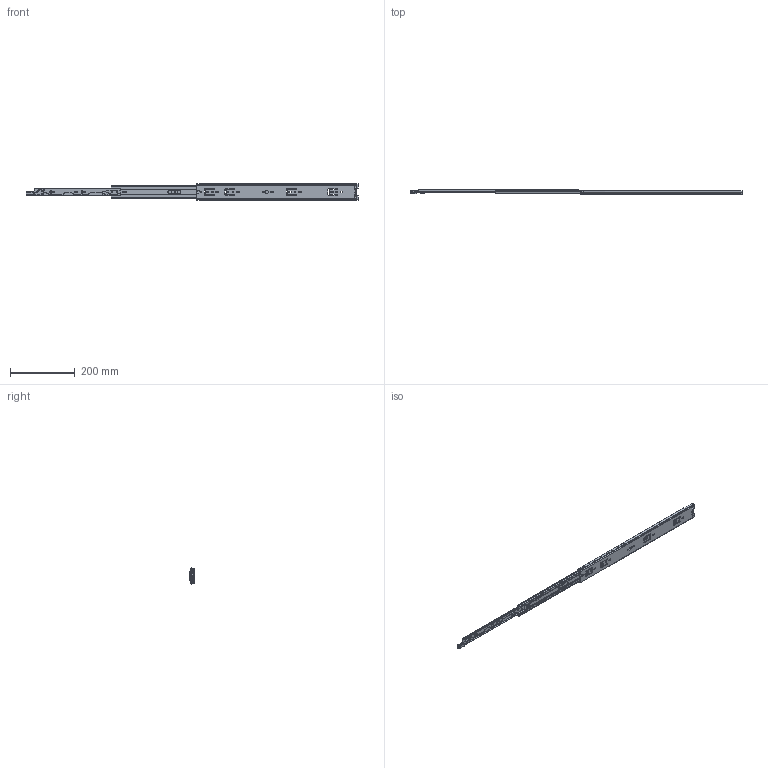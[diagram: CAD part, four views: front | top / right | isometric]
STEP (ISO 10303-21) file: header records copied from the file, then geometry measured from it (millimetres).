
FILE_DESCRIPTION((''),'2;1');
FILE_NAME('KP-50-3S-20ZUO_ASM','2023-05-05T',('jishu015'),(''),'PRO/ENGINEER BY PARAMETRIC TECHNOLOGY CORPORATION, 2010280','PRO/ENGINEER BY PARAMETRIC TECHNOLOGY CORPORATION, 2010280','');
FILE_SCHEMA(('CONFIG_CONTROL_DESIGN'));
Length unit declared in the file: millimetre
Products named in the file (19): KP-50-01WAIKE18_______________; KP-50-01ZHONGGIU20_; ZHONGGUIPEIJIAN____________; 50BAIKOU_________; KP-53-01ZHONGGUI-1854___ASM; KP-50-01ZHUJIA-16GE43__; 4-76GANZHU_______________; KP-50-01ZHUJIA-16GE23___ASM; KP-50-01NEIGUI18_______________; YH1050BANJI____________; PIAN____________; JIAO____________; DAOPIAN_________; ZOU-1_________; KP53-0NEIGUI________________ASM; 50ZHUTIAO_______________; 50ZHUTIAO________________ASM; CHANGGUI1045WEIJIAO222; KP-50-3S-20ZUO_ASM
Assembly tree (62 placements, depth 3):
  KP-50-3S-20ZUO_ASM
    KP-50-01WAIKE18_______________
    KP-53-01ZHONGGUI-1854___ASM
      KP-50-01ZHONGGIU20_
      ZHONGGUIPEIJIAN____________
      50BAIKOU_________
    KP-50-01ZHUJIA-16GE23___ASM
      KP-50-01ZHUJIA-16GE43__
      4-76GANZHU_______________  x36
    KP53-0NEIGUI________________ASM
      KP-50-01NEIGUI18_______________
      YH1050BANJI____________
      PIAN____________
      JIAO____________
      DAOPIAN_________
      ZOU-1_________
    50ZHUTIAO________________ASM  x2
      50ZHUTIAO_______________
      4-76GANZHU_______________
    CHANGGUI1045WEIJIAO222
Bounding box: 1025.3 x 13 x 50 mm (x, y, z)
Volume: 149188.3 mm3; surface area: 197500.6 mm2
Topology: 66 solids, 67 shells, 1831 faces, 5306 edges, 3284 vertices
Faces by surface type: cylinder 790, plane 744, bspline 129, sphere 106, torus 25, extrusion 23, cone 14
Entity records: 61618 total; most frequent: CARTESIAN_POINT 16358, ORIENTED_EDGE 9652, DIRECTION 9266, EDGE_CURVE 4828, AXIS2_PLACEMENT_3D 3154, VERTEX_POINT 3070, VECTOR 2958, LINE 2935
